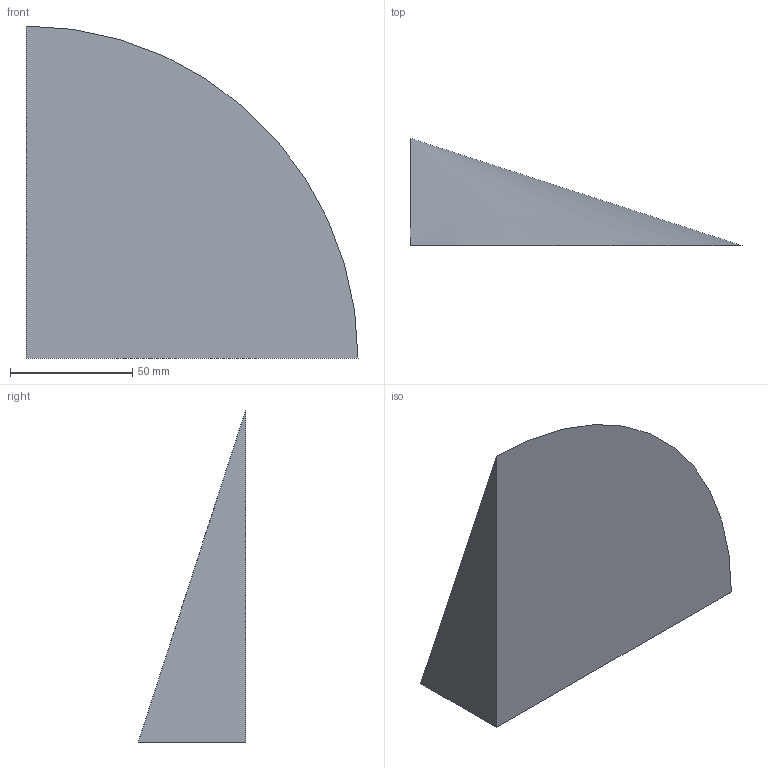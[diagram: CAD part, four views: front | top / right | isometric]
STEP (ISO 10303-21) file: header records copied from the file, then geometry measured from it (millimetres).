
FILE_DESCRIPTION(('CATIA V5 STEP Exchange'),'2;1');
FILE_NAME('C:\_Andres\UNIVERSIDAD\IQS\ASIGNATURAS\DAO\EXF\EXF-16172c\2inicio\Villarroya_Marquina_Ej07_v36.stp','2017-03-05T21:18:16+00:00',('none'),('none'),'CATIA Version 5-6 Release 2014 SP1 HF18','CATIA V5 STEP AP203','none');
FILE_SCHEMA(('CONFIG_CONTROL_DESIGN'));
Length unit declared in the file: millimetre
Products named in the file (1): Villarroya_Marquina_Ej07_v36
Bounding box: 136 x 44 x 136 mm (x, y, z)
Volume: 213058.6 mm3; surface area: 35778.8 mm2
Topology: 1 solids, 1 shells, 4 faces, 7 edges, 4 vertices
Faces by surface type: plane 3, cone 1
Entity records: 131 total; most frequent: CARTESIAN_POINT 15, DIRECTION 14, ORIENTED_EDGE 12, AXIS2_PLACEMENT_3D 6, EDGE_CURVE 6, VECTOR 5, LINE 5, ADVANCED_FACE 4
